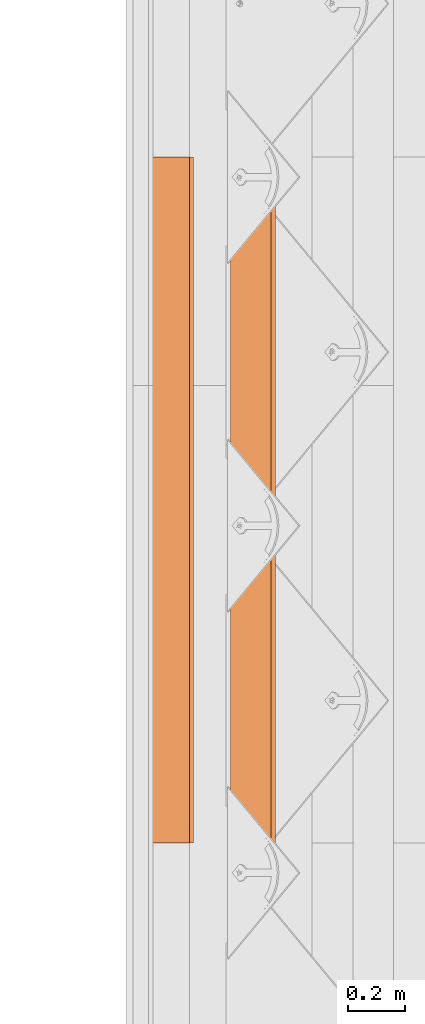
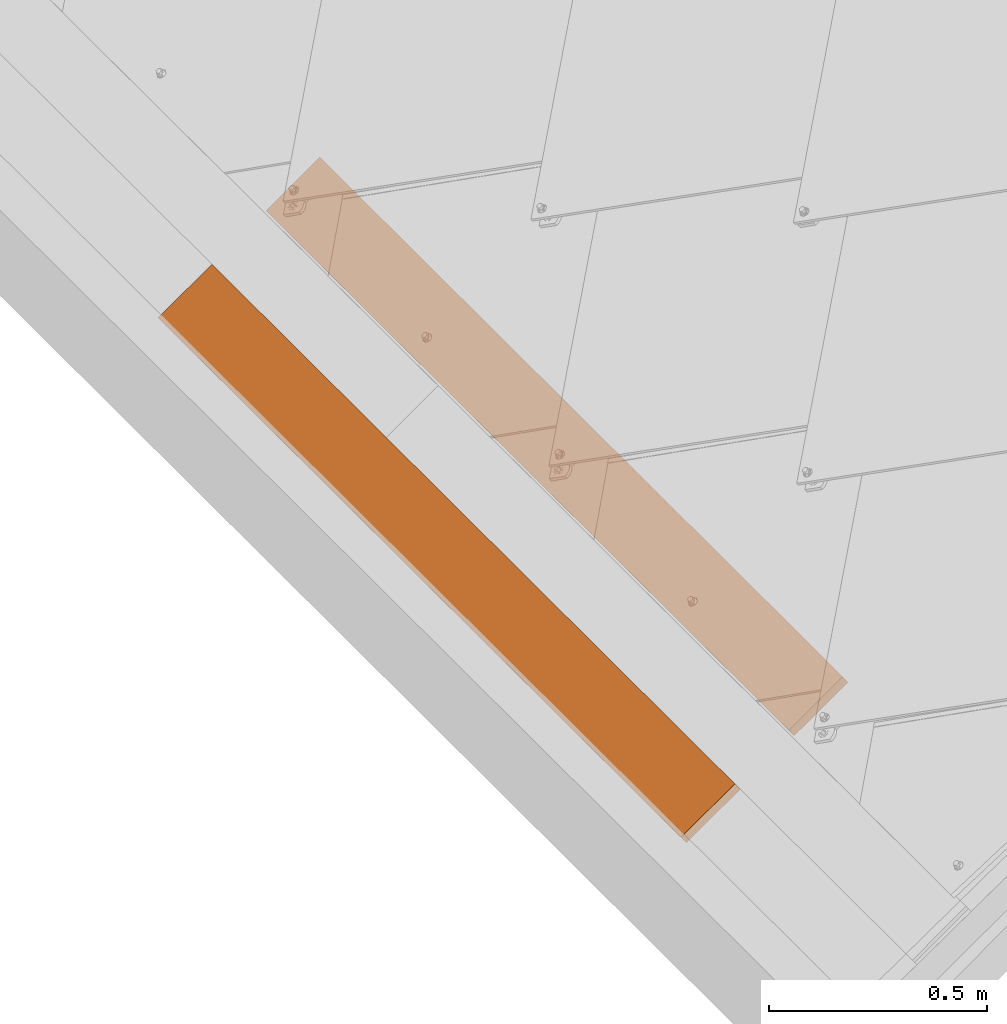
# One storey, part 25 of 133: 2 proxies, 1 element without a shape of its own.
"""IFC2X3 building model written with IfcOpenShell, lengths in millimetres."""

from ifc_helpers import new_model, entity, si_unit, converted_unit, derived_unit, direction, frame, frame_2d, origin, place, context, subcontext, project, spatial, rectangle, extrude, source, transform, mapped, material, type_object, type_shapes, element, aggregate, save


model = new_model("IFC2X3")

# Units and contexts
model_context = context("Model", 3, precision=0.01, world=origin(), true_north=direction((6.12303176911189e-17, 1.0)))
body_context = subcontext(model_context, "Body", "Model", "MODEL_VIEW")
ifc_project = project(units=[si_unit("LENGTHUNIT", "METRE", prefix="MILLI"), si_unit("AREAUNIT", "SQUARE_METRE"), si_unit("VOLUMEUNIT", "CUBIC_METRE"), converted_unit("PLANEANGLEUNIT", "DEGREE", entity("IfcRatioMeasure", 0.0174532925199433), si_unit("PLANEANGLEUNIT", "RADIAN"), dimensions=[0, 0, 0, 0, 0, 0, 0]), si_unit("MASSUNIT", "GRAM", prefix="KILO"), derived_unit("MASSDENSITYUNIT", [(si_unit("MASSUNIT", "GRAM", prefix="KILO"), 1), (si_unit("LENGTHUNIT", "METRE"), -3)]), si_unit("TIMEUNIT", "SECOND"), si_unit("FREQUENCYUNIT", "HERTZ"), si_unit("THERMODYNAMICTEMPERATUREUNIT", "DEGREE_CELSIUS"), derived_unit("THERMALTRANSMITTANCEUNIT", [(si_unit("MASSUNIT", "GRAM", prefix="KILO"), 1), (si_unit("THERMODYNAMICTEMPERATUREUNIT", "KELVIN"), -1), (si_unit("TIMEUNIT", "SECOND"), -3)]), derived_unit("VOLUMETRICFLOWRATEUNIT", [(si_unit("LENGTHUNIT", "METRE"), 3), (si_unit("TIMEUNIT", "SECOND"), -1)]), si_unit("ELECTRICCURRENTUNIT", "AMPERE"), si_unit("ELECTRICVOLTAGEUNIT", "VOLT"), si_unit("POWERUNIT", "WATT"), si_unit("FORCEUNIT", "NEWTON", prefix="KILO"), si_unit("ILLUMINANCEUNIT", "LUX"), si_unit("LUMINOUSFLUXUNIT", "LUMEN"), si_unit("LUMINOUSINTENSITYUNIT", "CANDELA"), derived_unit("USERDEFINED", [(si_unit("MASSUNIT", "GRAM", prefix="KILO"), -1), (si_unit("LENGTHUNIT", "METRE"), -2), (si_unit("TIMEUNIT", "SECOND"), 3), (si_unit("LUMINOUSFLUXUNIT", "LUMEN"), 1)]), derived_unit("LINEARVELOCITYUNIT", [(si_unit("LENGTHUNIT", "METRE"), 1), (si_unit("TIMEUNIT", "SECOND"), -1)]), si_unit("PRESSUREUNIT", "PASCAL"), derived_unit("USERDEFINED", [(si_unit("LENGTHUNIT", "METRE"), -2), (si_unit("MASSUNIT", "GRAM", prefix="KILO"), 1), (si_unit("TIMEUNIT", "SECOND"), -2)])], contexts=[model_context])

# Site, building, storey
site_placement = place(None, origin())
site = spatial("IfcSite", under=ifc_project, at=site_placement, Name="Default", CompositionType="ELEMENT")
building_placement = place(site_placement, origin())
building = spatial("IfcBuilding", under=site, at=building_placement, CompositionType="ELEMENT")
storey_placement = place(building_placement, origin())
storey = spatial("IfcBuildingStorey", under=building, at=storey_placement, Name="Level 1", CompositionType="ELEMENT", Elevation=0.0)

# Assembly, proxies
assembly_placement = place(storey_placement, origin())
assembly = element("IfcElementAssembly", 1, at=assembly_placement, inside=storey, Name="Structural Framing Assembly:Roof Construction Assembly", ObjectType="Structural Framing Assembly:Roof Construction Assembly", AssemblyPlace="NOTDEFINED", PredefinedType="USERDEFINED")
ifc_material = material(Name="Wood - Generic - Wood For Showcase")
building_element_proxy_type_1 = type_object("IfcBuildingElementProxyType", Name="Structural Framing 15", PredefinedType="NOTDEFINED", material=ifc_material)
shared_shape_1 = source(origin(), body_context, "Body", "SweptSolid", [
    extrude(rectangle(XDim=24.9999999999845, YDim=174.344679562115, at=frame_2d((-1.77635683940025e-13, -4.54747350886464e-13), x_axis=(0.0, 1.0))), frame((1128.20180147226, 1525.55080214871, 2760.23940055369), z_axis=(0.0, 1.0, 0.0), x_axis=(-0.819152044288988, 0.0, -0.573576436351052)), (0.0, 0.0, 1.0), 2400.0),
])
type_shapes(building_element_proxy_type_1, [shared_shape_1])
proxy_1_placement = place(assembly_placement, frame((-3427.55521618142, -4870.0, -2400.0)))
proxy_1 = element("IfcBuildingElementProxy", 2, at=proxy_1_placement, type_object=building_element_proxy_type_1, material=ifc_material, Name="Structural Framing 137:Structural Framing 15", ObjectType="Structural Framing 137:Structural Framing 15", context=body_context, shape_type="MappedRepresentation", body=[
    mapped(shared_shape_1, transform((0.0, 0.0, 0.0), scale=1.0)),
])
building_element_proxy_type_2 = type_object("IfcBuildingElementProxyType", Name="Structural Framing 15", PredefinedType="NOTDEFINED", material=ifc_material)
shared_shape_2 = source(origin(), body_context, "Body", "SweptSolid", [
    extrude(rectangle(XDim=24.9999999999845, YDim=174.344679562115, at=frame_2d((-1.77635683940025e-13, -4.54747350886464e-13), x_axis=(0.0, 1.0))), frame((1128.20180147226, 1525.55080214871, 2760.23940055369), z_axis=(0.0, 1.0, 0.0), x_axis=(-0.819152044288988, 0.0, -0.573576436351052)), (0.0, 0.0, 1.0), 2400.0),
])
type_shapes(building_element_proxy_type_2, [shared_shape_2])
proxy_2_placement = place(assembly_placement, frame((-3713.18481752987, -4870.0, -2600.0)))
proxy_2 = element("IfcBuildingElementProxy", 3, at=proxy_2_placement, type_object=building_element_proxy_type_2, material=ifc_material, Name="Structural Framing 147:Structural Framing 15", ObjectType="Structural Framing 147:Structural Framing 15", context=body_context, shape_type="MappedRepresentation", body=[
    mapped(shared_shape_2, transform((0.0, 0.0, 0.0), scale=1.0)),
])
aggregate(assembly, [proxy_1, proxy_2])

save(model, "model.ifc")
